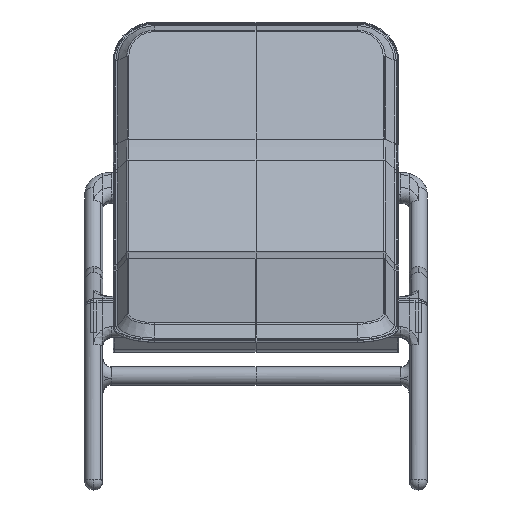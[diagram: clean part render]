
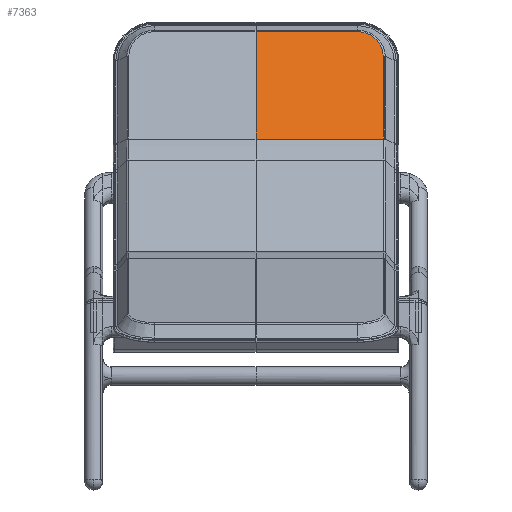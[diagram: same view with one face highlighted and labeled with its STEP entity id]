
A CAD part, left-side view. The second image highlights one B-rep face of the part: STEP entity #7363.
In plain terms, the highlighted planar face has unit normal (-0.94, 0, 0.342).
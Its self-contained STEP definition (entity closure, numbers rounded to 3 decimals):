
#889 = DIRECTION ( 'NONE',  ( 0.342, 0., 0.94 ) ) ;
#1029 = DIRECTION ( 'NONE',  ( 0.202, -0.807, 0.555 ) ) ;
#1247 = LINE ( 'NONE', #17661, #18626 ) ;
#1407 = ORIENTED_EDGE ( 'NONE', *, *, #9144, .T. ) ;
#1494 = AXIS2_PLACEMENT_3D ( 'NONE', #23109, #17467, #22857 ) ;
#3094 = DIRECTION ( 'NONE',  ( 0., -1., 0. ) ) ;
#3644 = CARTESIAN_POINT ( 'NONE',  ( 7174.387, 2873.333, 693.67 ) ) ;
#3733 = ORIENTED_EDGE ( 'NONE', *, *, #21773, .T. ) ;
#4491 = CARTESIAN_POINT ( 'NONE',  ( 7212.01, 3118.333, 797.036 ) ) ;
#4956 = CARTESIAN_POINT ( 'NONE',  ( 7174.387, 3118.333, 693.67 ) ) ;
#5658 = VERTEX_POINT ( 'NONE', #10188 ) ;
#5796 = AXIS2_PLACEMENT_3D ( 'NONE', #21824, #18160, #1029 ) ;
#6224 = EDGE_LOOP ( 'NONE', ( #24105, #10844, #3733, #12471, #1407 ) ) ;
#6358 = EDGE_CURVE ( 'NONE', #13549, #7380, #13446, .T. ) ;
#7363 = ADVANCED_FACE ( 'NONE', ( #15645 ), #15403, .F. ) ;
#7380 = VERTEX_POINT ( 'NONE', #19895 ) ;
#7684 = EDGE_CURVE ( 'NONE', #5658, #22419, #15979, .T. ) ;
#8638 = VECTOR ( 'NONE', #14802, 1000. ) ;
#8949 = VECTOR ( 'NONE', #13682, 1000. ) ;
#9144 = EDGE_CURVE ( 'NONE', #22419, #7380, #23741, .T. ) ;
#9488 = VECTOR ( 'NONE', #3094, 1000. ) ;
#10188 = CARTESIAN_POINT ( 'NONE',  ( 7232.531, 2873.333, 853.417 ) ) ;
#10659 = CARTESIAN_POINT ( 'NONE',  ( 7249.632, 3118.333, 900.402 ) ) ;
#10844 = ORIENTED_EDGE ( 'NONE', *, *, #17723, .T. ) ;
#12471 = ORIENTED_EDGE ( 'NONE', *, *, #7684, .T. ) ;
#13446 = LINE ( 'NONE', #4491, #8949 ) ;
#13549 = VERTEX_POINT ( 'NONE', #4956 ) ;
#13682 = DIRECTION ( 'NONE',  ( 0.342, 0., 0.94 ) ) ;
#14802 = DIRECTION ( 'NONE',  ( 0., 1., 0. ) ) ;
#15403 = PLANE ( 'NONE',  #1494 ) ;
#15645 = FACE_OUTER_BOUND ( 'NONE', #6224, .T. ) ;
#15979 = CIRCLE ( 'NONE', #5796, 50. ) ;
#16435 = LINE ( 'NONE', #16676, #9488 ) ;
#16676 = CARTESIAN_POINT ( 'NONE',  ( 7174.387, 3363.333, 693.67 ) ) ;
#17467 = DIRECTION ( 'NONE',  ( 0.94, 0., -0.342 ) ) ;
#17661 = CARTESIAN_POINT ( 'NONE',  ( 7193.199, 2873.333, 745.353 ) ) ;
#17723 = EDGE_CURVE ( 'NONE', #13549, #19715, #16435, .T. ) ;
#17962 = CARTESIAN_POINT ( 'NONE',  ( 7249.632, 2923.333, 900.402 ) ) ;
#18160 = DIRECTION ( 'NONE',  ( -0.94, 0., 0.342 ) ) ;
#18626 = VECTOR ( 'NONE', #889, 1000. ) ;
#19715 = VERTEX_POINT ( 'NONE', #3644 ) ;
#19895 = CARTESIAN_POINT ( 'NONE',  ( 7249.632, 3118.333, 900.402 ) ) ;
#21773 = EDGE_CURVE ( 'NONE', #19715, #5658, #1247, .T. ) ;
#21824 = CARTESIAN_POINT ( 'NONE',  ( 7232.531, 2923.333, 853.417 ) ) ;
#22419 = VERTEX_POINT ( 'NONE', #17962 ) ;
#22857 = DIRECTION ( 'NONE',  ( 0., 1., 0. ) ) ;
#23109 = CARTESIAN_POINT ( 'NONE',  ( 7212.01, 3118.333, 797.036 ) ) ;
#23741 = LINE ( 'NONE', #10659, #8638 ) ;
#24105 = ORIENTED_EDGE ( 'NONE', *, *, #6358, .F. ) ;
